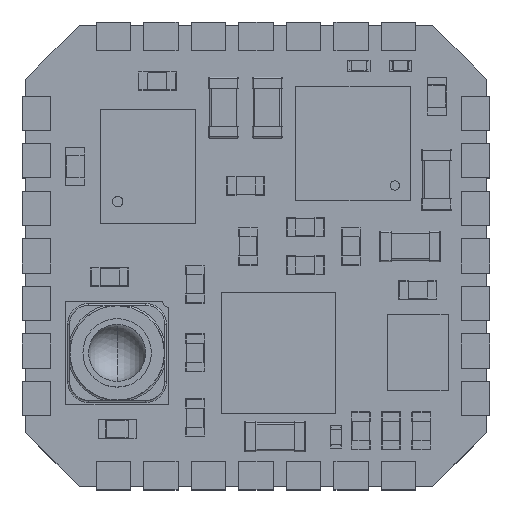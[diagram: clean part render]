
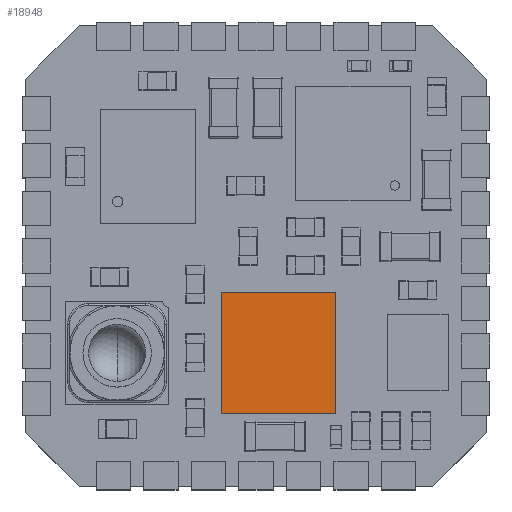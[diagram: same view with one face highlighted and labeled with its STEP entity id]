
A CAD part, top view. The second image highlights one B-rep face of the part: STEP entity #18948.
In plain terms, the highlighted planar face has unit normal (0, 0, 1).
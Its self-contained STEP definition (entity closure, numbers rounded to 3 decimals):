
#1382 = VECTOR ( 'NONE', #7036, 1000. ) ;
#1745 = VERTEX_POINT ( 'NONE', #28347 ) ;
#3873 = VECTOR ( 'NONE', #7630, 1000. ) ;
#4787 = ORIENTED_EDGE ( 'NONE', *, *, #6519, .F. ) ;
#6519 = EDGE_CURVE ( 'NONE', #1745, #8905, #25574, .T. ) ;
#6711 = CARTESIAN_POINT ( 'NONE',  ( 1002.1, 995.85, 2.019 ) ) ;
#7036 = DIRECTION ( 'NONE',  ( 0., 1., 0. ) ) ;
#7153 = CARTESIAN_POINT ( 'NONE',  ( 1002.1, 995.85, 2.019 ) ) ;
#7630 = DIRECTION ( 'NONE',  ( 1., 0., 0. ) ) ;
#7741 = ORIENTED_EDGE ( 'NONE', *, *, #19933, .F. ) ;
#8503 = VERTEX_POINT ( 'NONE', #7153 ) ;
#8905 = VERTEX_POINT ( 'NONE', #31188 ) ;
#13408 = LINE ( 'NONE', #33519, #1382 ) ;
#13801 = LINE ( 'NONE', #22096, #38253 ) ;
#15613 = LINE ( 'NONE', #6711, #19304 ) ;
#17812 = FACE_OUTER_BOUND ( 'NONE', #30681, .T. ) ;
#18948 = ADVANCED_FACE ( 'NONE', ( #17812 ), #23419, .F. ) ;
#19304 = VECTOR ( 'NONE', #27373, 1000. ) ;
#19933 = EDGE_CURVE ( 'NONE', #8503, #24815, #15613, .T. ) ;
#21232 = EDGE_CURVE ( 'NONE', #24815, #1745, #13408, .T. ) ;
#22096 = CARTESIAN_POINT ( 'NONE',  ( 1002.1, 999.05, 2.019 ) ) ;
#22377 = ORIENTED_EDGE ( 'NONE', *, *, #35405, .F. ) ;
#23419 = PLANE ( 'NONE',  #28462 ) ;
#24815 = VERTEX_POINT ( 'NONE', #33170 ) ;
#25561 = DIRECTION ( 'NONE',  ( 0., -1., 0. ) ) ;
#25574 = LINE ( 'NONE', #30991, #3873 ) ;
#27373 = DIRECTION ( 'NONE',  ( -1., 0., 0. ) ) ;
#28347 = CARTESIAN_POINT ( 'NONE',  ( 999.1, 999.05, 2.019 ) ) ;
#28462 = AXIS2_PLACEMENT_3D ( 'NONE', #29007, #38112, #29201 ) ;
#29007 = CARTESIAN_POINT ( 'NONE',  ( 1000.6, 997.45, 2.019 ) ) ;
#29201 = DIRECTION ( 'NONE',  ( 0., -1., 0. ) ) ;
#30681 = EDGE_LOOP ( 'NONE', ( #36303, #7741, #22377, #4787 ) ) ;
#30991 = CARTESIAN_POINT ( 'NONE',  ( 999.1, 999.05, 2.019 ) ) ;
#31188 = CARTESIAN_POINT ( 'NONE',  ( 1002.1, 999.05, 2.019 ) ) ;
#33170 = CARTESIAN_POINT ( 'NONE',  ( 999.1, 995.85, 2.019 ) ) ;
#33519 = CARTESIAN_POINT ( 'NONE',  ( 999.1, 995.85, 2.019 ) ) ;
#35405 = EDGE_CURVE ( 'NONE', #8905, #8503, #13801, .T. ) ;
#36303 = ORIENTED_EDGE ( 'NONE', *, *, #21232, .F. ) ;
#38112 = DIRECTION ( 'NONE',  ( 0., 0., -1. ) ) ;
#38253 = VECTOR ( 'NONE', #25561, 1000. ) ;
